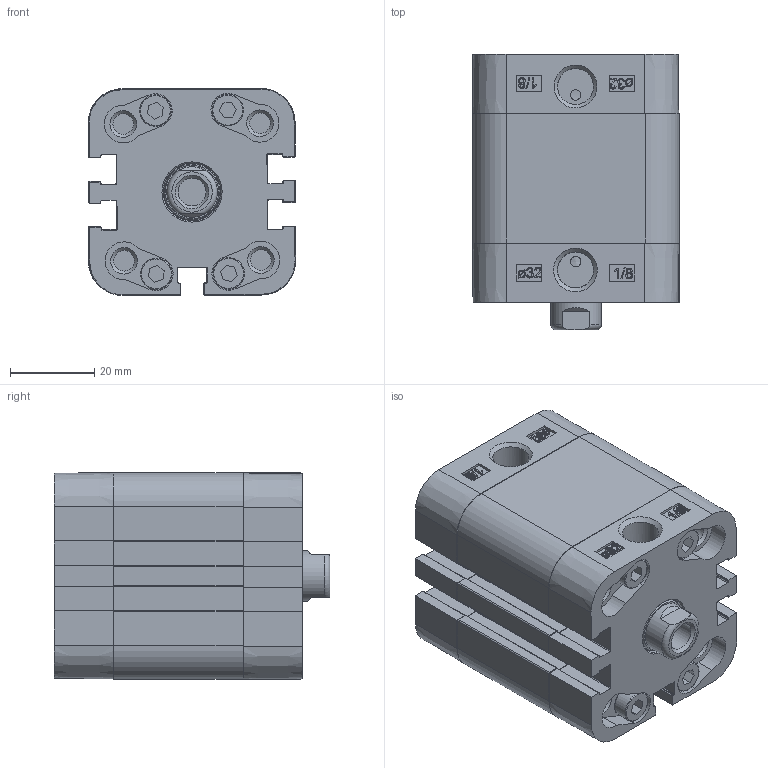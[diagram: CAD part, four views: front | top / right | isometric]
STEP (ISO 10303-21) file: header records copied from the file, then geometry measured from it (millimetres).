
FILE_DESCRIPTION(/* description */ ('Unknown'),/* implementation_level */ '2;1');
FILE_NAME(/* name */ 'ZEN 32_15',/* time_stamp */ '2024-09-10T12:46:22+02:00',/* author */ ('Unknown'),/* organization */ ('Unknown'),/* preprocessor_version */ 'ST-DEVELOPER v16.7',/* originating_system */ 'Solid Edge',/* authorisation */ 'Unknown');
FILE_SCHEMA (('AUTOMOTIVE_DESIGN {1 0 10303 214 3 1 1}'));
Length unit declared in the file: millimetre
Products named in the file (5): ZEN 32_15; Kit_2; Kit_1; Profilrohr; Kolbenstange
Assembly tree (4 placements, depth 2):
  ZEN 32_15
    Kit_2
    Kit_1
    Profilrohr
    Kolbenstange
Bounding box: 49.21 x 65.5 x 49.19 mm (x, y, z)
Volume: 108145.9 mm3; surface area: 40707.5 mm2
Topology: 4 solids, 12 shells, 718 faces, 1871 edges, 1230 vertices
Faces by surface type: plane 340, cylinder 188, bspline 112, torus 46, cone 32
Full cylindrical faces by diameter (mm): 2.5 x2, 4.917 x8, 5.2 x8, 6.64 x1, 6.647 x1, 7.5 x8, 8.566 x2, 9 x1, 12 x1, 12.54 x1, 13.7 x1, 14 x1, 16.32 x1, 16.5 x1, 32 x2
Entity records: 27012 total; most frequent: CARTESIAN_POINT 5764, ORIENTED_EDGE 3512, DIRECTION 3174, EDGE_CURVE 1756, VERTEX_POINT 1202, AXIS2_PLACEMENT_3D 1063, LINE 1048, VECTOR 1048
